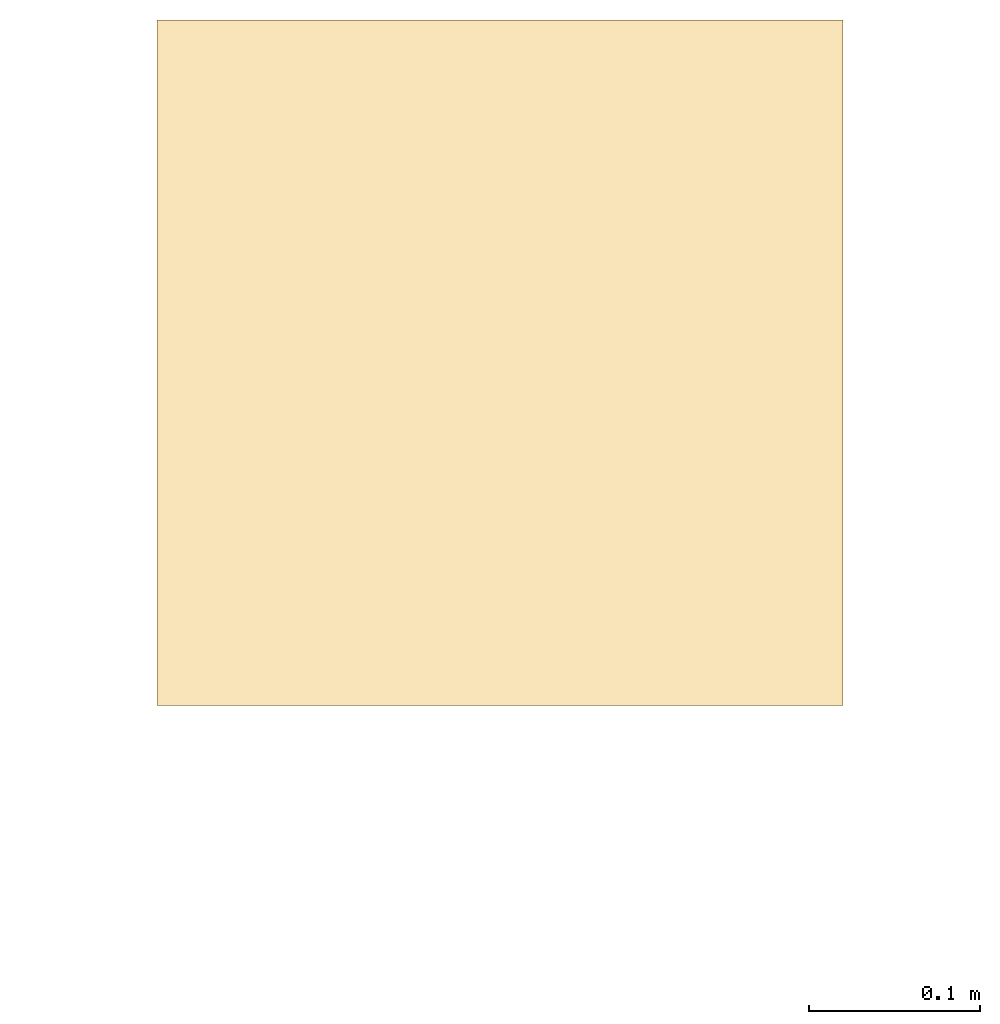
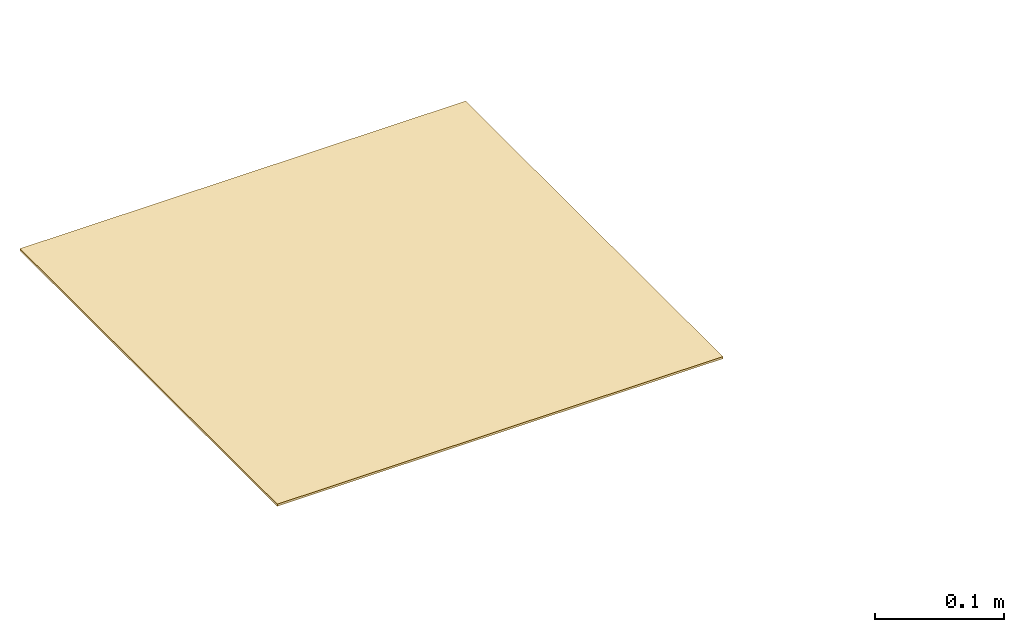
# One storey, part 2 of 3: 1 covering.
"""IFC2X3 building model written with IfcOpenShell, lengths in metres."""

from ifc_helpers import new_model, entity, si_unit, converted_unit, derived_unit, direction, frame, origin, origin_2d_with_axis, place, context, subcontext, project, spatial, rectangle, extrude, material, layer, layer_set, layer_usage, type_object, element, save


model = new_model("IFC2X3")

# Units and contexts
model_context = context("Model", 3, precision=1e-05, world=origin(), true_north=direction((6.123031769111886e-17, 1.0)))
body_context = subcontext(model_context, "Body", "Model", "MODEL_VIEW")
ifc_project = project(units=[si_unit("LENGTHUNIT", "METRE"), si_unit("AREAUNIT", "SQUARE_METRE"), si_unit("VOLUMEUNIT", "CUBIC_METRE"), converted_unit("PLANEANGLEUNIT", "DEGREE", entity("IfcRatioMeasure", 0.017453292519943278), si_unit("PLANEANGLEUNIT", "RADIAN"), dimensions=[0, 0, 0, 0, 0, 0, 0]), si_unit("MASSUNIT", "GRAM", prefix="KILO"), derived_unit("MASSDENSITYUNIT", [(si_unit("MASSUNIT", "GRAM", prefix="KILO"), 1), (si_unit("LENGTHUNIT", "METRE"), -3)]), derived_unit("IONCONCENTRATIONUNIT", [(si_unit("MASSUNIT", "GRAM", prefix="KILO"), 1), (si_unit("LENGTHUNIT", "METRE"), -3)]), derived_unit("MOMENTOFINERTIAUNIT", [(si_unit("LENGTHUNIT", "METRE"), 4)]), si_unit("TIMEUNIT", "SECOND"), si_unit("FREQUENCYUNIT", "HERTZ"), si_unit("THERMODYNAMICTEMPERATUREUNIT", "DEGREE_CELSIUS"), derived_unit("THERMALTRANSMITTANCEUNIT", [(si_unit("MASSUNIT", "GRAM", prefix="KILO"), 1), (si_unit("THERMODYNAMICTEMPERATUREUNIT", "KELVIN"), -1), (si_unit("TIMEUNIT", "SECOND"), -3)]), derived_unit("THERMALCONDUCTANCEUNIT", [(si_unit("MASSUNIT", "GRAM", prefix="KILO"), 1), (si_unit("THERMODYNAMICTEMPERATUREUNIT", "KELVIN"), -1), (si_unit("TIMEUNIT", "SECOND"), -3), (si_unit("LENGTHUNIT", "METRE"), 1)]), derived_unit("VOLUMETRICFLOWRATEUNIT", [(si_unit("LENGTHUNIT", "METRE"), 3), (si_unit("TIMEUNIT", "SECOND"), -1)]), derived_unit("MASSFLOWRATEUNIT", [(si_unit("MASSUNIT", "GRAM", prefix="KILO"), 1), (si_unit("TIMEUNIT", "SECOND"), -1)]), derived_unit("ROTATIONALFREQUENCYUNIT", [(si_unit("TIMEUNIT", "SECOND"), -1)]), si_unit("ELECTRICCURRENTUNIT", "AMPERE"), si_unit("ELECTRICVOLTAGEUNIT", "VOLT"), si_unit("POWERUNIT", "WATT"), si_unit("FORCEUNIT", "NEWTON", prefix="KILO"), si_unit("ILLUMINANCEUNIT", "LUX"), si_unit("LUMINOUSFLUXUNIT", "LUMEN"), si_unit("LUMINOUSINTENSITYUNIT", "CANDELA"), derived_unit("USERDEFINED", [(si_unit("MASSUNIT", "GRAM", prefix="KILO"), -1), (si_unit("LENGTHUNIT", "METRE"), -2), (si_unit("TIMEUNIT", "SECOND"), 3), (si_unit("LUMINOUSFLUXUNIT", "LUMEN"), 1)]), derived_unit("USERDEFINED", [(si_unit("MASSUNIT", "GRAM", prefix="KILO"), 1), (si_unit("TIMEUNIT", "SECOND"), -3), (si_unit("LENGTHUNIT", "METRE"), 3), (si_unit("ELECTRICCURRENTUNIT", "AMPERE"), -2)]), derived_unit("SOUNDPOWERUNIT", [(si_unit("MASSUNIT", "GRAM", prefix="KILO"), 1), (si_unit("TIMEUNIT", "SECOND"), -3), (si_unit("LENGTHUNIT", "METRE"), 2)]), derived_unit("SOUNDPRESSUREUNIT", [(si_unit("MASSUNIT", "GRAM", prefix="KILO"), 1), (si_unit("LENGTHUNIT", "METRE"), -1), (si_unit("TIMEUNIT", "SECOND"), -2)]), derived_unit("LINEARVELOCITYUNIT", [(si_unit("LENGTHUNIT", "METRE"), 1), (si_unit("TIMEUNIT", "SECOND"), -1)]), si_unit("PRESSUREUNIT", "PASCAL"), derived_unit("USERDEFINED", [(si_unit("MASSUNIT", "GRAM", prefix="KILO"), 1), (si_unit("LENGTHUNIT", "METRE"), -2), (si_unit("TIMEUNIT", "SECOND"), -2)]), derived_unit("LINEARFORCEUNIT", [(si_unit("MASSUNIT", "GRAM", prefix="KILO"), 1), (si_unit("TIMEUNIT", "SECOND"), -2)]), derived_unit("PLANARFORCEUNIT", [(si_unit("MASSUNIT", "GRAM", prefix="KILO"), 1), (si_unit("LENGTHUNIT", "METRE"), -1), (si_unit("TIMEUNIT", "SECOND"), -2)]), derived_unit("SPECIFICHEATCAPACITYUNIT", [(si_unit("THERMODYNAMICTEMPERATUREUNIT", "KELVIN"), -1), (si_unit("LENGTHUNIT", "METRE"), 2), (si_unit("TIMEUNIT", "SECOND"), -2)]), derived_unit("HEATINGVALUEUNIT", [(si_unit("LENGTHUNIT", "METRE"), 2), (si_unit("TIMEUNIT", "SECOND"), -2)]), derived_unit("VAPORPERMEABILITYUNIT", [(si_unit("LENGTHUNIT", "METRE"), -1), (si_unit("TIMEUNIT", "SECOND"), 1)]), derived_unit("DYNAMICVISCOSITYUNIT", [(si_unit("MASSUNIT", "GRAM", prefix="KILO"), 1), (si_unit("TIMEUNIT", "SECOND"), -1), (si_unit("LENGTHUNIT", "METRE"), -1)]), derived_unit("THERMALEXPANSIONCOEFFICIENTUNIT", [(si_unit("THERMODYNAMICTEMPERATUREUNIT", "KELVIN"), -1)]), derived_unit("MODULUSOFELASTICITYUNIT", [(si_unit("MASSUNIT", "GRAM", prefix="KILO"), 1), (si_unit("LENGTHUNIT", "METRE"), -1), (si_unit("TIMEUNIT", "SECOND"), -2)]), derived_unit("ISOTHERMALMOISTURECAPACITYUNIT", [(si_unit("LENGTHUNIT", "METRE"), 3), (si_unit("MASSUNIT", "GRAM", prefix="KILO"), -1)]), derived_unit("MOISTUREDIFFUSIVITYUNIT", [(si_unit("TIMEUNIT", "SECOND"), -1), (si_unit("LENGTHUNIT", "METRE"), 2)])], contexts=[model_context])

# Site, building, storey
site_placement = place(None, origin())
site = spatial("IfcSite", under=ifc_project, at=site_placement, Name="Default", CompositionType="ELEMENT")
building_placement = place(site_placement, origin())
building = spatial("IfcBuilding", under=site, at=building_placement, CompositionType="ELEMENT")
storey_placement = place(building_placement, frame((0.0, 0.0, -0.0025237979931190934)))
storey = spatial("IfcBuildingStorey", under=building, at=storey_placement, Name="ARQ Térreo", CompositionType="ELEMENT", Elevation=-0.0025237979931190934)

# Covering
ifc_material_1 = material(Name="#Primer")
ifc_layer_1 = layer(ifc_material_1, 0.0009999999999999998)
ifc_material_2 = material(Name="#Vitpoli Eco")
ifc_layer_2 = layer(ifc_material_2, 0.0009999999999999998)
ifc_layer_set = layer_set([ifc_layer_1, ifc_layer_2], Name="Forro composto:IMPT - VITPOLI ECO")
ifc_layer_usage = layer_usage(ifc_layer_set, "AXIS3", "POSITIVE", 0.0)
covering_type = type_object("IfcCoveringType", Name="Forro composto:IMPT - VITPOLI ECO", PredefinedType="CEILING")
covering_placement = place(storey_placement, origin())
element("IfcCovering", 1, at=covering_placement, inside=storey, type_object=covering_type, material=ifc_layer_usage, Name="Forro composto:IMPT - VITPOLI ECO", ObjectType="Forro composto:IMPT - VITPOLI ECO", PredefinedType="CEILING", context=body_context, shape_type="SweptSolid", body=[
    extrude(rectangle(XDim=0.4000000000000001, YDim=0.4, at=origin_2d_with_axis()), frame((-0.042989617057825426, 2.1507680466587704, 0.0), z_axis=(0.0, 0.0, 1.0), x_axis=(-1.0, 0.0, 0.0)), (0.0, 0.0, 1.0), 0.0019999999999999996),
])

save(model, "model.ifc")
